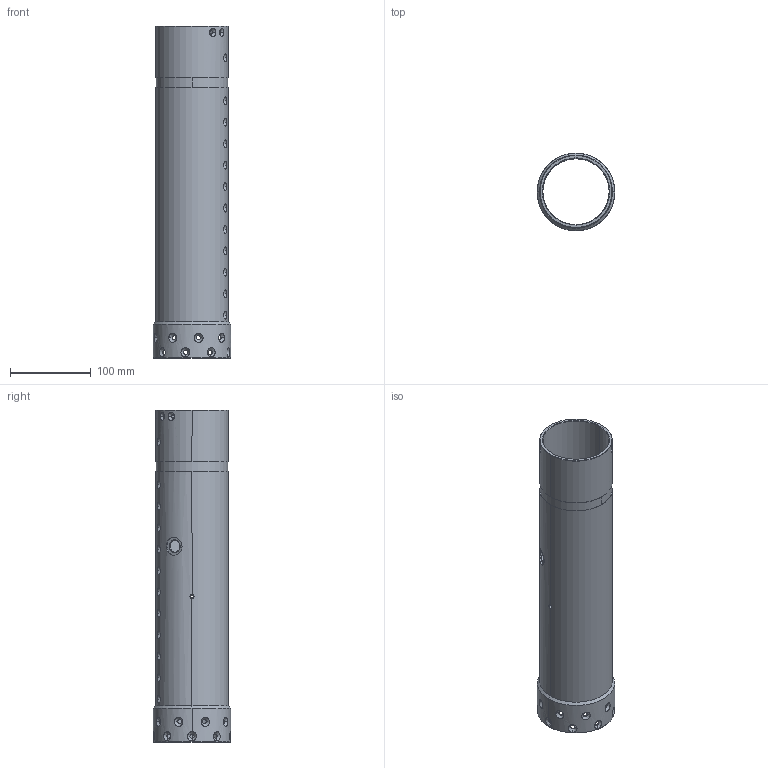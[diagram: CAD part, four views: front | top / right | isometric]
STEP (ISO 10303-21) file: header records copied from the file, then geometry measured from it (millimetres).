
FILE_DESCRIPTION((''),'2;1');
FILE_NAME('NV005A_0308_45_DAOTAO-DX','2025-10-08T',('sfc-lishengjun'),(''),'PRO/ENGINEER BY PARAMETRIC TECHNOLOGY CORPORATION, 2014310','PRO/ENGINEER BY PARAMETRIC TECHNOLOGY CORPORATION, 2014310','');
FILE_SCHEMA(('CONFIG_CONTROL_DESIGN'));
Length unit declared in the file: millimetre
Products named in the file (1): NV005A_0308_45_DAOTAO-DX
Bounding box: 96 x 96 x 410.5 mm (x, y, z)
Volume: 439325.9 mm3; surface area: 227172.4 mm2
Topology: 1 solids, 4 shells, 226 faces, 604 edges, 376 vertices
Faces by surface type: cylinder 118, cone 102, plane 6
Entity records: 9033 total; most frequent: CARTESIAN_POINT 3531, ORIENTED_EDGE 1188, DIRECTION 978, EDGE_CURVE 604, VERTEX_POINT 376, AXIS2_PLACEMENT_3D 375, EDGE_LOOP 322, VECTOR 228
